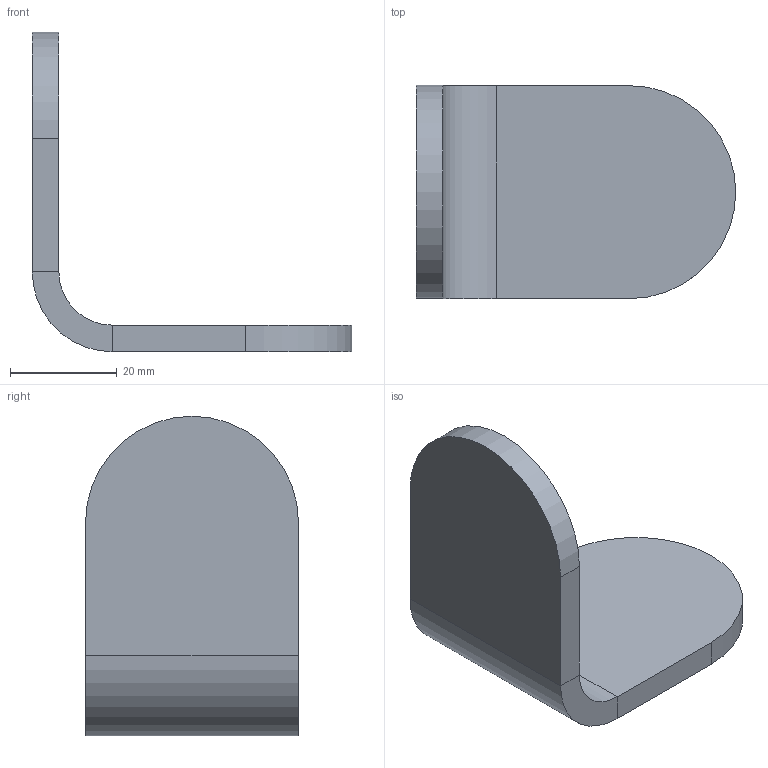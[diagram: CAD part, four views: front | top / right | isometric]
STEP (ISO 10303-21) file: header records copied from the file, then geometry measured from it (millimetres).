
FILE_DESCRIPTION (( 'STEP AP214' ), '1' );
FILE_NAME ('NIK_110.STEP', '2021-11-29T08:44:34', ( '' ), ( '' ), 'SwSTEP 2.0', 'SolidWorks 2019', '' );
FILE_SCHEMA (( 'AUTOMOTIVE_DESIGN' ));
Length unit declared in the file: millimetre
Products named in the file (1): NIK_110
Bounding box: 60 x 40 x 60 mm (x, y, z)
Volume: 20210.2 mm3; surface area: 9408.7 mm2
Topology: 1 solids, 1 shells, 15 faces, 31 edges, 18 vertices
Faces by surface type: plane 10, cylinder 5
Entity records: 425 total; most frequent: DIRECTION 73, CARTESIAN_POINT 65, ORIENTED_EDGE 62, EDGE_CURVE 31, AXIS2_PLACEMENT_3D 26, VECTOR 21, LINE 21, VERTEX_POINT 18
